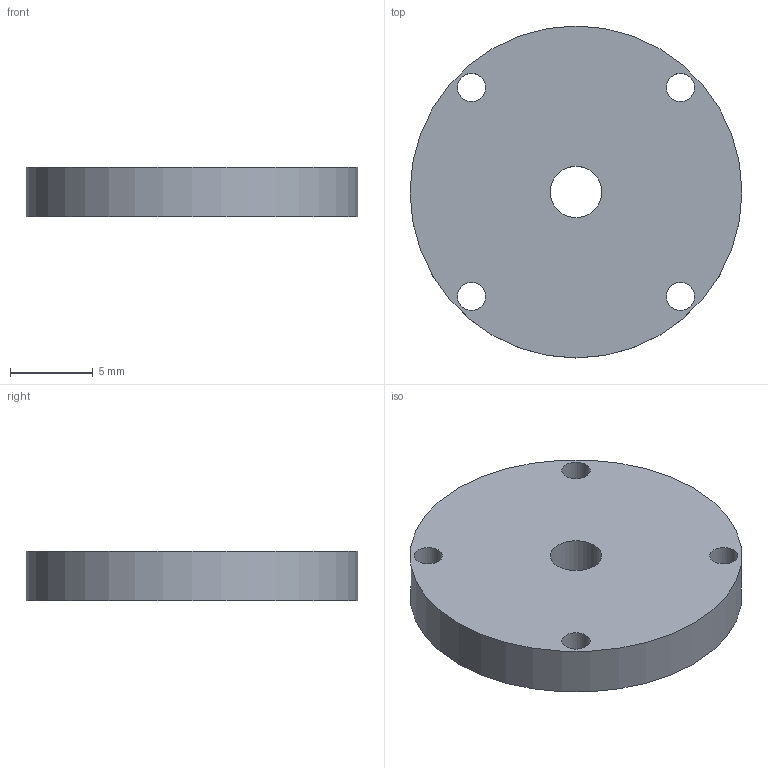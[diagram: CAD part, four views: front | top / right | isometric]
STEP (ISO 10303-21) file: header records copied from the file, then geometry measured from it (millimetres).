
FILE_DESCRIPTION(('Open CASCADE Model'),'2;1');
FILE_NAME('Open CASCADE Shape Model','2026-09-24T19:46:42',('Author'),( 'Open CASCADE'),'Open CASCADE STEP processor 7.8','Open CASCADE 7.8' ,'Unknown');
FILE_SCHEMA(('AUTOMOTIVE_DESIGN { 1 0 10303 214 1 1 1 1 }'));
Length unit declared in the file: millimetre
Products named in the file (1): Open CASCADE STEP translator 7.8 4
Bounding box: 20 x 20 x 3 mm (x, y, z)
Volume: 892.6 mm3; surface area: 876.9 mm2
Topology: 1 solids, 1 shells, 8 faces, 18 edges, 12 vertices
Faces by surface type: cylinder 6, plane 2
Full cylindrical faces by diameter (mm): 1.7 x4, 3.1 x1, 20 x1
Entity records: 498 total; most frequent: DIRECTION 84, CARTESIAN_POINT 75, ORIENTED_EDGE 36, PCURVE 36, DEFINITIONAL_REPRESENTATION 36, LINE 30, VECTOR 30, CIRCLE 24
